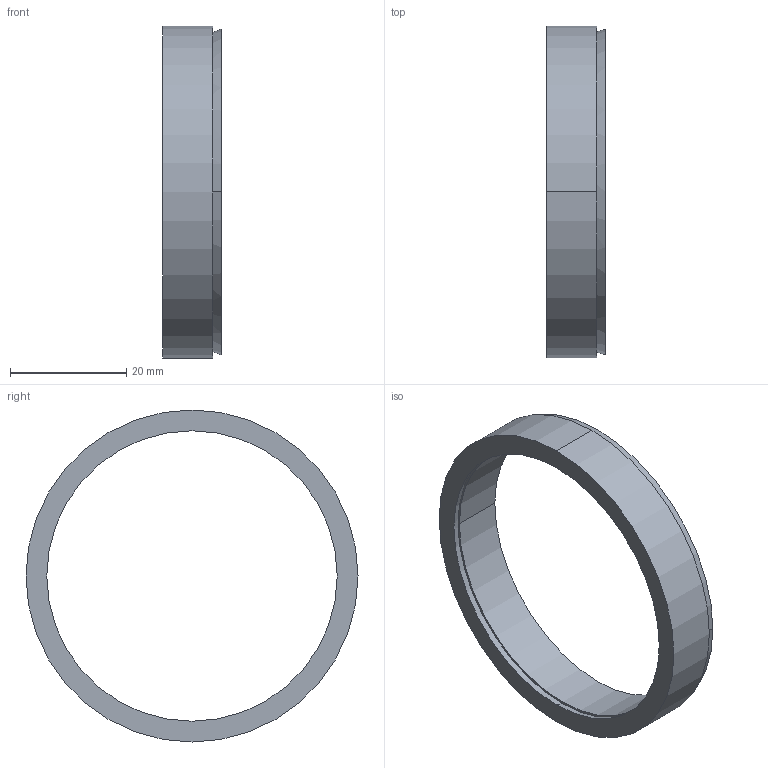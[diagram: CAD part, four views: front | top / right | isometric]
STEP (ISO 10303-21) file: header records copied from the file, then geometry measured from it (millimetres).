
FILE_DESCRIPTION (( 'STEP AP203' ), '1' );
FILE_NAME ('R-50-57.STEP', '2017-11-06T03:22:34', ( 'MYCOM' ), ( '' ), 'SwSTEP 2.0', 'SolidWorks 2015', '' );
FILE_SCHEMA (( 'CONFIG_CONTROL_DESIGN' ));
Length unit declared in the file: millimetre
Products named in the file (1): R-50-57
Bounding box: 10 x 57 x 57 mm (x, y, z)
Surface area: 7193.2 mm2 (no closed solid volume)
Topology: 0 solids, 2 shells, 12 faces, 24 edges, 16 vertices
Faces by surface type: cone 4, cylinder 4, plane 4
Entity records: 406 total; most frequent: DIRECTION 66, CARTESIAN_POINT 53, ORIENTED_EDGE 48, AXIS2_PLACEMENT_3D 29, EDGE_CURVE 24, VERTEX_POINT 16, CIRCLE 16, EDGE_LOOP 16
